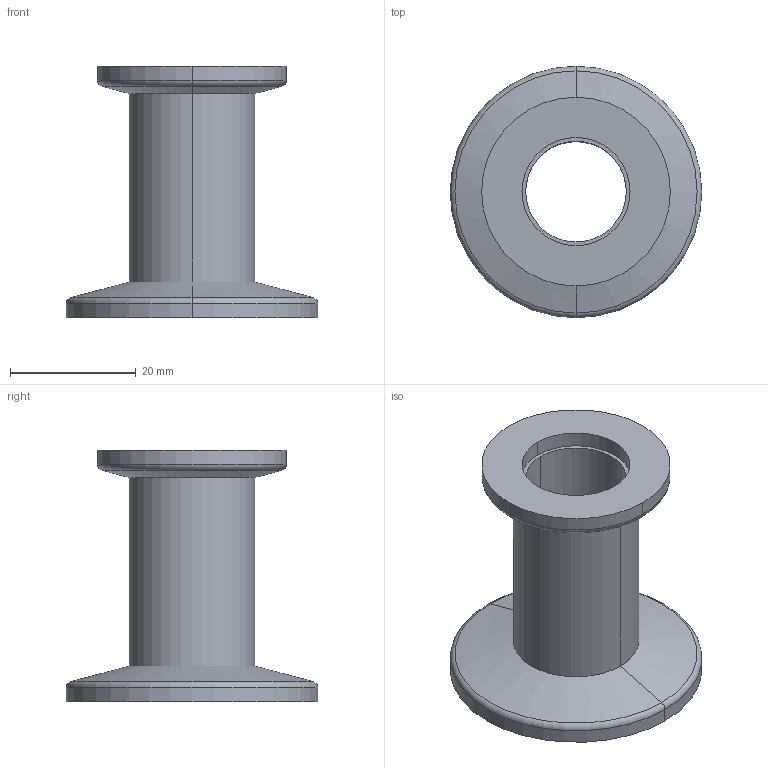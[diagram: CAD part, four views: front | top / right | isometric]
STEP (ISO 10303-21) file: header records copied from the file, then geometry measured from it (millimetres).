
FILE_DESCRIPTION (( 'STEP AP214' ), '1' );
FILE_NAME ('W3RS25-16.STEP', '2019-12-04T07:46:29', ( '' ), ( '' ), 'SwSTEP 2.0', 'SolidWorks 2018', '' );
FILE_SCHEMA (( 'AUTOMOTIVE_DESIGN' ));
Length unit declared in the file: millimetre
Products named in the file (1): W3RS25-16
Bounding box: 40 x 40 x 40 mm (x, y, z)
Volume: 8949.4 mm3; surface area: 7536.9 mm2
Topology: 1 solids, 1 shells, 24 faces, 48 edges, 28 vertices
Faces by surface type: cylinder 12, torus 4, cone 4, plane 4
Entity records: 666 total; most frequent: DIRECTION 130, CARTESIAN_POINT 101, ORIENTED_EDGE 96, AXIS2_PLACEMENT_3D 57, EDGE_CURVE 48, CIRCLE 32, EDGE_LOOP 28, VERTEX_POINT 28
